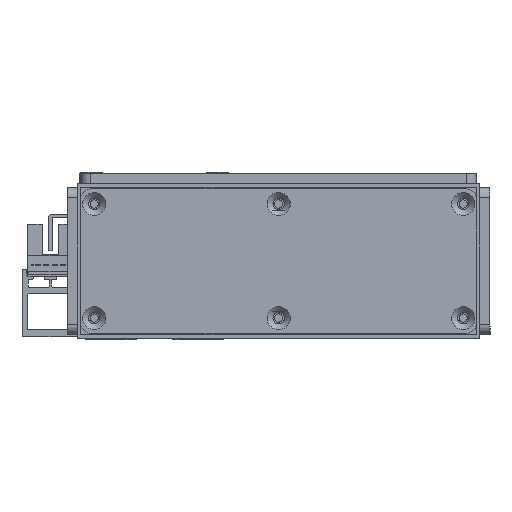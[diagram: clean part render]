
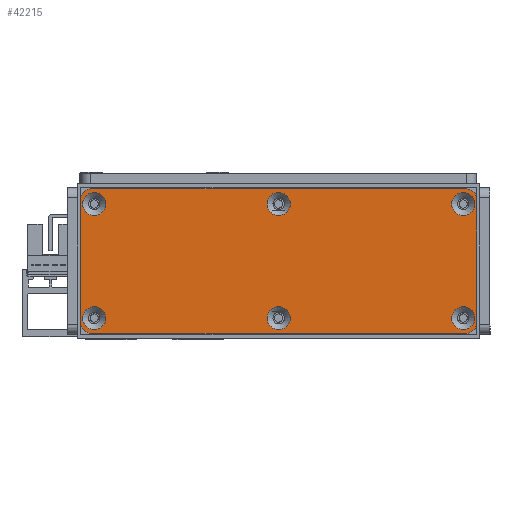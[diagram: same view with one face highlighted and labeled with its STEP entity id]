
A CAD part, front view. The second image highlights one B-rep face of the part: STEP entity #42215.
In plain terms, the highlighted planar face has unit normal (0, -1, 0) as drawn and (0, 0, 1) by its records, which use the part's own axes.
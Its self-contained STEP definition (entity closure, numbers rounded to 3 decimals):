
#838=FACE_BOUND('',#7234,.T.);
#839=FACE_BOUND('',#7235,.T.);
#840=FACE_BOUND('',#7236,.T.);
#841=FACE_BOUND('',#7237,.T.);
#842=FACE_BOUND('',#7238,.T.);
#843=FACE_BOUND('',#7239,.T.);
#1383=PLANE('',#45595);
#4747=FACE_OUTER_BOUND('',#7233,.T.);
#7233=EDGE_LOOP('',(#33718,#33719,#33720,#33721,#33722,#33723,#33724,#33725));
#7234=EDGE_LOOP('',(#33726));
#7235=EDGE_LOOP('',(#33727));
#7236=EDGE_LOOP('',(#33728));
#7237=EDGE_LOOP('',(#33729));
#7238=EDGE_LOOP('',(#33730));
#7239=EDGE_LOOP('',(#33731));
#10072=LINE('',#64831,#14752);
#10076=LINE('',#64843,#14756);
#10080=LINE('',#64855,#14760);
#10084=LINE('',#64865,#14764);
#14752=VECTOR('',#52077,10.);
#14756=VECTOR('',#52089,10.);
#14760=VECTOR('',#52101,10.);
#14764=VECTOR('',#52113,10.);
#18781=CIRCLE('',#45549,3.45);
#18784=CIRCLE('',#45554,3.45);
#18787=CIRCLE('',#45559,3.45);
#18790=CIRCLE('',#45564,3.45);
#18793=CIRCLE('',#45569,3.45);
#18796=CIRCLE('',#45574,3.45);
#18800=CIRCLE('',#45580,3.);
#18802=CIRCLE('',#45584,3.);
#18804=CIRCLE('',#45588,3.);
#18806=CIRCLE('',#45592,3.);
#20609=VERTEX_POINT('',#64759);
#20612=VERTEX_POINT('',#64769);
#20615=VERTEX_POINT('',#64779);
#20618=VERTEX_POINT('',#64789);
#20621=VERTEX_POINT('',#64799);
#20624=VERTEX_POINT('',#64809);
#20629=VERTEX_POINT('',#64822);
#20630=VERTEX_POINT('',#64824);
#20632=VERTEX_POINT('',#64830);
#20634=VERTEX_POINT('',#64836);
#20636=VERTEX_POINT('',#64842);
#20638=VERTEX_POINT('',#64848);
#20640=VERTEX_POINT('',#64854);
#20642=VERTEX_POINT('',#64860);
#25342=EDGE_CURVE('',#20609,#20609,#18781,.T.);
#25347=EDGE_CURVE('',#20612,#20612,#18784,.T.);
#25352=EDGE_CURVE('',#20615,#20615,#18787,.T.);
#25357=EDGE_CURVE('',#20618,#20618,#18790,.T.);
#25362=EDGE_CURVE('',#20621,#20621,#18793,.T.);
#25367=EDGE_CURVE('',#20624,#20624,#18796,.T.);
#25374=EDGE_CURVE('',#20630,#20629,#18800,.T.);
#25377=EDGE_CURVE('',#20632,#20630,#10072,.T.);
#25380=EDGE_CURVE('',#20634,#20632,#18802,.T.);
#25383=EDGE_CURVE('',#20636,#20634,#10076,.T.);
#25386=EDGE_CURVE('',#20638,#20636,#18804,.T.);
#25389=EDGE_CURVE('',#20640,#20638,#10080,.T.);
#25392=EDGE_CURVE('',#20642,#20640,#18806,.T.);
#25395=EDGE_CURVE('',#20629,#20642,#10084,.T.);
#33718=ORIENTED_EDGE('',*,*,#25395,.T.);
#33719=ORIENTED_EDGE('',*,*,#25392,.T.);
#33720=ORIENTED_EDGE('',*,*,#25389,.T.);
#33721=ORIENTED_EDGE('',*,*,#25386,.T.);
#33722=ORIENTED_EDGE('',*,*,#25383,.T.);
#33723=ORIENTED_EDGE('',*,*,#25380,.T.);
#33724=ORIENTED_EDGE('',*,*,#25377,.T.);
#33725=ORIENTED_EDGE('',*,*,#25374,.T.);
#33726=ORIENTED_EDGE('',*,*,#25342,.T.);
#33727=ORIENTED_EDGE('',*,*,#25347,.T.);
#33728=ORIENTED_EDGE('',*,*,#25352,.T.);
#33729=ORIENTED_EDGE('',*,*,#25357,.T.);
#33730=ORIENTED_EDGE('',*,*,#25362,.T.);
#33731=ORIENTED_EDGE('',*,*,#25367,.T.);
#42215=ADVANCED_FACE('',(#4747,#838,#839,#840,#841,#842,#843),#1383,.T.);
#45549=AXIS2_PLACEMENT_3D('',#64760,#51996,#51997);
#45554=AXIS2_PLACEMENT_3D('',#64770,#52008,#52009);
#45559=AXIS2_PLACEMENT_3D('',#64780,#52020,#52021);
#45564=AXIS2_PLACEMENT_3D('',#64790,#52032,#52033);
#45569=AXIS2_PLACEMENT_3D('',#64800,#52044,#52045);
#45574=AXIS2_PLACEMENT_3D('',#64810,#52056,#52057);
#45580=AXIS2_PLACEMENT_3D('',#64825,#52071,#52072);
#45584=AXIS2_PLACEMENT_3D('',#64837,#52083,#52084);
#45588=AXIS2_PLACEMENT_3D('',#64849,#52095,#52096);
#45592=AXIS2_PLACEMENT_3D('',#64861,#52107,#52108);
#45595=AXIS2_PLACEMENT_3D('',#64867,#52116,#52117);
#51996=DIRECTION('center_axis',(0.,0.,-1.));
#51997=DIRECTION('ref_axis',(1.,0.,0.));
#52008=DIRECTION('center_axis',(0.,0.,-1.));
#52009=DIRECTION('ref_axis',(1.,0.,0.));
#52020=DIRECTION('center_axis',(0.,0.,-1.));
#52021=DIRECTION('ref_axis',(1.,0.,0.));
#52032=DIRECTION('center_axis',(0.,0.,-1.));
#52033=DIRECTION('ref_axis',(1.,0.,0.));
#52044=DIRECTION('center_axis',(0.,0.,-1.));
#52045=DIRECTION('ref_axis',(1.,0.,0.));
#52056=DIRECTION('center_axis',(0.,0.,-1.));
#52057=DIRECTION('ref_axis',(1.,0.,0.));
#52071=DIRECTION('center_axis',(0.,0.,1.));
#52072=DIRECTION('ref_axis',(-1.,0.,0.));
#52077=DIRECTION('',(0.,1.,0.));
#52083=DIRECTION('center_axis',(0.,0.,1.));
#52084=DIRECTION('ref_axis',(0.,1.,0.));
#52089=DIRECTION('',(1.,0.,0.));
#52095=DIRECTION('center_axis',(0.,0.,1.));
#52096=DIRECTION('ref_axis',(1.,0.,0.));
#52101=DIRECTION('',(0.,-1.,0.));
#52107=DIRECTION('center_axis',(0.,0.,1.));
#52108=DIRECTION('ref_axis',(0.,-1.,0.));
#52113=DIRECTION('',(-1.,0.,0.));
#52116=DIRECTION('center_axis',(0.,0.,1.));
#52117=DIRECTION('ref_axis',(1.,0.,0.));
#64759=CARTESIAN_POINT('',(110.55,4.5,3.));
#64760=CARTESIAN_POINT('Origin',(114.,4.5,3.));
#64769=CARTESIAN_POINT('',(55.55,38.5,3.));
#64770=CARTESIAN_POINT('Origin',(59.,38.5,3.));
#64779=CARTESIAN_POINT('',(55.55,4.5,3.));
#64780=CARTESIAN_POINT('Origin',(59.,4.5,3.));
#64789=CARTESIAN_POINT('',(0.55,38.5,3.));
#64790=CARTESIAN_POINT('Origin',(4.,38.5,3.));
#64799=CARTESIAN_POINT('',(110.55,38.5,3.));
#64800=CARTESIAN_POINT('Origin',(114.,38.5,3.));
#64809=CARTESIAN_POINT('',(0.55,4.5,3.));
#64810=CARTESIAN_POINT('Origin',(4.,4.5,3.));
#64822=CARTESIAN_POINT('',(115.,43.,3.));
#64824=CARTESIAN_POINT('',(118.,40.,3.));
#64825=CARTESIAN_POINT('Origin',(115.,40.,3.));
#64830=CARTESIAN_POINT('',(118.,3.,3.));
#64831=CARTESIAN_POINT('',(118.,40.,3.));
#64836=CARTESIAN_POINT('',(115.,0.,3.));
#64837=CARTESIAN_POINT('Origin',(115.,3.,3.));
#64842=CARTESIAN_POINT('',(3.,0.,3.));
#64843=CARTESIAN_POINT('',(115.,0.,3.));
#64848=CARTESIAN_POINT('',(0.,3.,3.));
#64849=CARTESIAN_POINT('Origin',(3.,3.,3.));
#64854=CARTESIAN_POINT('',(0.,40.,3.));
#64855=CARTESIAN_POINT('',(0.,3.,3.));
#64860=CARTESIAN_POINT('',(3.,43.,3.));
#64861=CARTESIAN_POINT('Origin',(3.,40.,3.));
#64865=CARTESIAN_POINT('',(3.,43.,3.));
#64867=CARTESIAN_POINT('Origin',(59.,21.5,3.));
